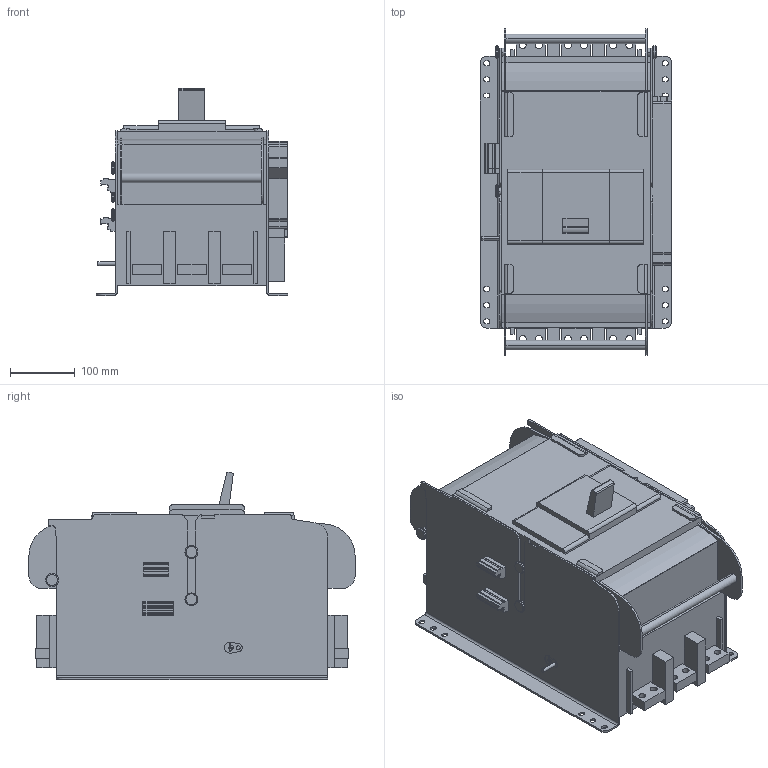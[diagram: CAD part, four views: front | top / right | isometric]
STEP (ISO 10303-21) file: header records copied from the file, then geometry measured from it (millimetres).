
FILE_DESCRIPTION (( 'STEP AP214' ), '1' );
FILE_NAME ('Ñáîðêà23.STEP', '2023-05-01T20:50:44', ( '' ), ( '' ), 'SwSTEP 2.0', 'SolidWorks 2018', '' );
FILE_SCHEMA (( 'AUTOMOTIVE_DESIGN' ));
Length unit declared in the file: millimetre
Products named in the file (2): OptiMat D1600薰; 栖闉罻23
Assembly tree (1 placements, depth 2):
  栖闉罻23
    OptiMat D1600薰
Bounding box: 296.4 x 505.7 x 321.24 mm (x, y, z)
Volume: 25111072.4 mm3; surface area: 884855.9 mm2
Topology: 1 solids, 1 shells, 652 faces, 1815 edges, 1202 vertices
Faces by surface type: plane 385, cylinder 248, cone 16, bspline 3
Entity records: 21185 total; most frequent: CARTESIAN_POINT 3783, DIRECTION 3636, ORIENTED_EDGE 3630, EDGE_CURVE 1815, LINE 1288, VECTOR 1288, VERTEX_POINT 1202, AXIS2_PLACEMENT_3D 1174
